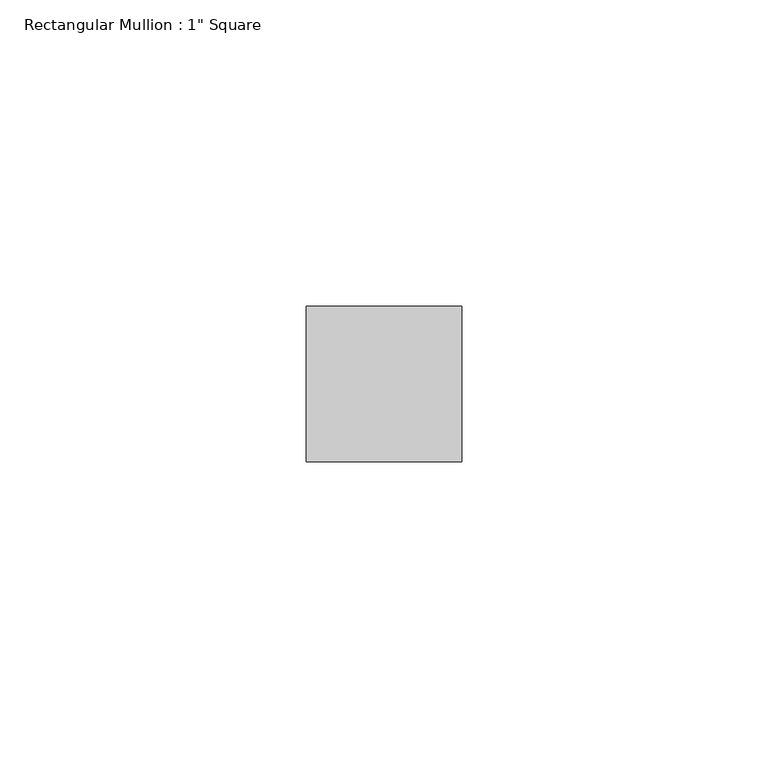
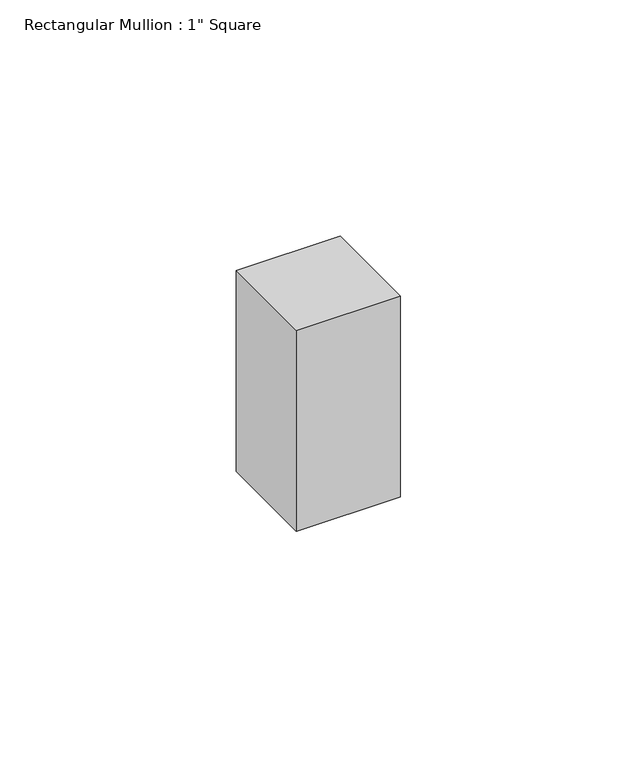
"""IFC4 building model written with IfcOpenShell, lengths in millimetres: member geometry."""

from ifc_helpers import new_model, si_unit, frame, origin, place, context, project, spatial, polyline, outline, extrude, source, transform, mapped, element, save


def member_1143d828(model_context):
    return source(origin(), model_context, "Body", "SweptSolid", [
        extrude(outline(polyline([(12.7, 12.7), (12.7, -12.7), (-12.7, -12.7), (-12.7, 12.7), (12.7, 12.7)])), frame((0.0, 0.0, -51.9099422), z_axis=(0.0, 0.0, 1.0), x_axis=(1.0, 0.0, 0.0)), (0.0, 0.0, 1.0), 51.9099422),
    ])


if __name__ == "__main__":
    model = new_model("IFC4")
    model_context = context("Model", 3, world=origin())
    ifc_project = project(units=[si_unit("LENGTHUNIT", "METRE", prefix="MILLI")], contexts=[model_context])
    site = spatial("IfcSite", under=ifc_project)
    building = spatial("IfcBuilding", under=site)
    placement = place(None, origin())
    member_shape = member_1143d828(model_context)
    element("IfcMember", 1, ObjectType="Rectangular Mullion : 1\" Square", at=placement, inside=building, context=model_context, shape_type="MappedRepresentation", body=[
        mapped(member_shape, transform((0.0, 0.0, 0.0), x_axis=(1.0, 0.0, 0.0), y_axis=(0.0, 1.0, 0.0), z_axis=(0.0, 0.0, 1.0))),
    ])
    save(model, "model.ifc")
